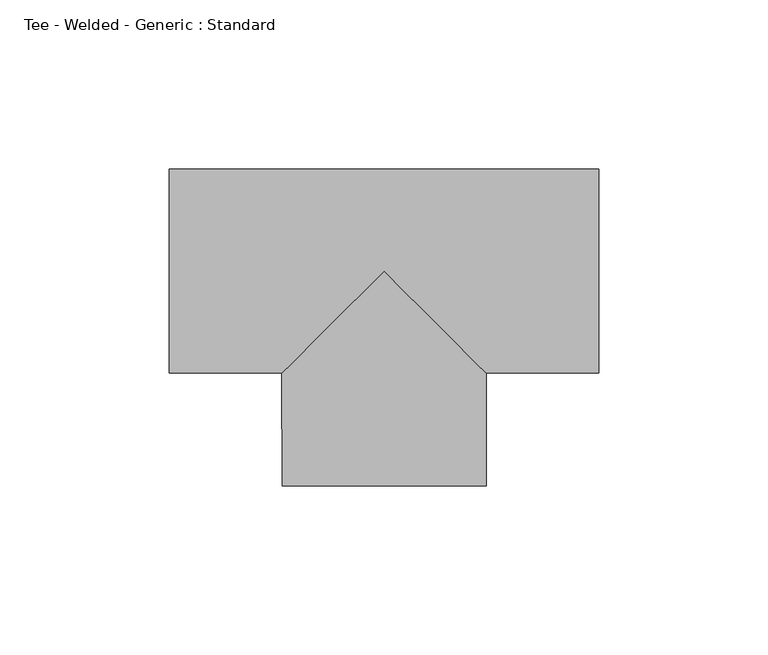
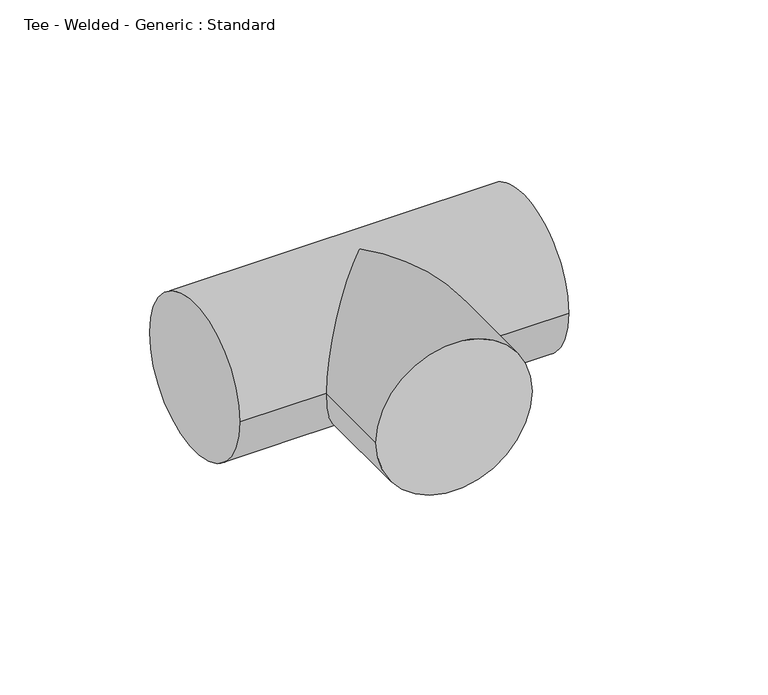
"""IFC4 building model written with IfcOpenShell, lengths in millimetres: pipe fitting geometry, Tee - Welded - Generic : Standard."""

from ifc_helpers import new_model, si_unit, frame, origin, place, context, project, spatial, circle_curve, ellipse_curve, source, transform, mapped, element, save
from ifc_brep_helpers import plane_surface, cylinder_surface, advanced_brep


def tee_welded_generic_standard_4cc6578f(model_context):
    return source(origin(), model_context, "Body", "AdvancedBrep", [
        advanced_brep(
        [(-63.5, -30.1625, 0.0), (-63.5, 30.1625, 0.0), (63.5, -30.1625, 0.0), (63.5, 30.1625, 0.0), (-30.155633, -30.1625, 0.0), (0.0, 0.0, 30.1625), (30.1693685, -30.1625, 0.0), (0.0, 0.0, -30.1625), (-30.1480408, -63.5068661, 0.0), (30.1769576, -63.4931306, 0.0)],
        [
            (0, 1, circle_curve(frame((-63.5, 0.0, 0.0), z_axis=(-1.0, 0.0, 0.0), x_axis=(0.0, 1.0, 0.0)), 30.1625)),
            (1, 0, circle_curve(frame((-63.5, 0.0, 0.0), z_axis=(-1.0, 0.0, 0.0), x_axis=(0.0, 1.0, 0.0)), 30.1625)),
            (2, 3, circle_curve(frame((63.5, 0.0, 0.0), z_axis=(1.0, 0.0, 0.0), x_axis=(0.0, 1.0, 0.0)), 30.1625)),
            (3, 2, circle_curve(frame((63.5, 0.0, 0.0), z_axis=(1.0, 0.0, 0.0), x_axis=(0.0, 1.0, 0.0)), 30.1625)),
            (0, 4),
            (4, 5, ellipse_curve(frame((0.0, 0.0, 0.0), z_axis=(-0.7071872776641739, 0.7070262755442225, 0.0), x_axis=(-0.7070262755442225, -0.707187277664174, 0.0)), 42.6513612, 30.1625)),
            (5, 6, ellipse_curve(frame((0.0, 0.0, 0.0), z_axis=(0.7070262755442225, 0.7071872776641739, 0.0), x_axis=(-0.7071872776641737, 0.7070262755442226, 0.0)), 42.6610736, 30.1625)),
            (6, 2),
            (3, 1),
            (6, 7, ellipse_curve(frame((0.0, 0.0, 0.0), z_axis=(0.7070262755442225, 0.7071872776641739, 0.0), x_axis=(-0.7071872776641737, 0.7070262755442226, 0.0)), 42.6610736, 30.1625)),
            (7, 4, ellipse_curve(frame((0.0, 0.0, 0.0), z_axis=(-0.7071872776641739, 0.7070262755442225, 0.0), x_axis=(-0.7070262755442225, -0.707187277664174, 0.0)), 42.6513612, 30.1625)),
            (8, 9, circle_curve(frame((0.0144584, -63.4999984, 0.0), z_axis=(0.000227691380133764, -0.9999999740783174, 0.0), x_axis=(0.9999999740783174, 0.000227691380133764, 0.0)), 30.1625)),
            (9, 8, circle_curve(frame((0.0144584, -63.4999984, 0.0), z_axis=(0.000227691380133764, -0.9999999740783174, 0.0), x_axis=(0.9999999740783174, 0.000227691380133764, 0.0)), 30.1625)),
            (9, 6),
            (4, 8),
        ],
        [
            plane_surface(frame((-63.5, 0.0, 0.0), z_axis=(-1.0, 0.0, 0.0), x_axis=(0.0, 0.0, 1.0))),
            plane_surface(frame((63.5, 0.0, 0.0), z_axis=(1.0, 0.0, 0.0), x_axis=(0.0, 0.0, 1.0))),
            cylinder_surface(frame((-63.5, 0.0, 0.0), z_axis=(-1.0, 0.0, 0.0), x_axis=(0.0, 1.0, 0.0)), 30.1625),
            plane_surface(frame((0.0144584, -63.4999984, 0.0), z_axis=(0.000227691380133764, -0.9999999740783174, 0.0), x_axis=(0.0, 0.0, 1.0))),
            cylinder_surface(frame((0.0, 0.0, 0.0), z_axis=(-0.000227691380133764, 0.9999999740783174, 0.0), x_axis=(0.9999999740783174, 0.000227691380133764, 0.0)), 30.1625),
        ],
        [
            (0, [[1, 2]]),
            (1, [[3, 4]]),
            (2, [[-1, 5, 6, 7, 8, -4, 9]]),
            (2, [[-2, -9, -3, -8, 10, 11, -5]]),
            (3, [[12, 13]]),
            (4, [[-13, 14, -7, -6, 15]]),
            (4, [[-12, -15, -11, -10, -14]]),
        ],
    ),
    ])


if __name__ == "__main__":
    model = new_model("IFC4")
    model_context = context("Model", 3, world=origin())
    ifc_project = project(units=[si_unit("LENGTHUNIT", "METRE", prefix="MILLI")], contexts=[model_context])
    site = spatial("IfcSite", under=ifc_project)
    building = spatial("IfcBuilding", under=site)
    placement = place(None, origin())
    tee_welded_generic_standard_shape = tee_welded_generic_standard_4cc6578f(model_context)
    element("IfcPipeFitting", 1, ObjectType="Tee - Welded - Generic : Standard", at=placement, inside=building, context=model_context, shape_type="MappedRepresentation", body=[
        mapped(tee_welded_generic_standard_shape, transform((0.0, 0.0, 0.0), x_axis=(1.0, 0.0, 0.0), y_axis=(0.0, 1.0, 0.0), z_axis=(0.0, 0.0, 1.0))),
    ])
    save(model, "model.ifc")
